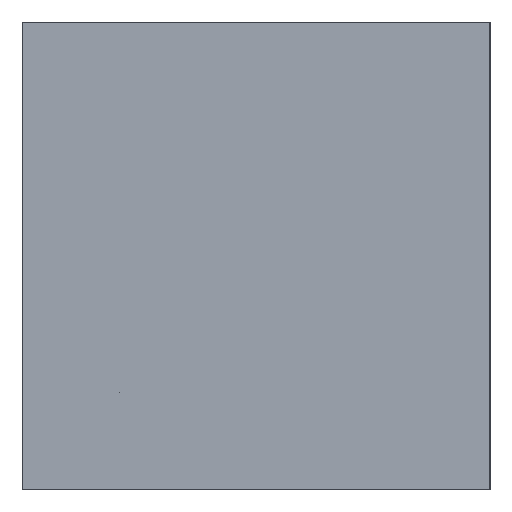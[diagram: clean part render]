
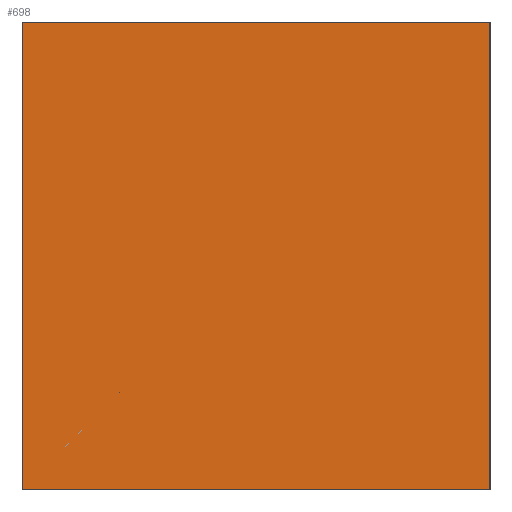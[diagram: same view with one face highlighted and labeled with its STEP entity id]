
A CAD part, left-side view. The second image highlights one B-rep face of the part: STEP entity #698.
In plain terms, the highlighted planar face has unit normal (-1, 0, 0).
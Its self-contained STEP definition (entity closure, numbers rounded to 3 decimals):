
#9 = VERTEX_POINT ( 'NONE', #51 ) ;
#51 = CARTESIAN_POINT ( 'NONE',  ( -40., 0., 6.35 ) ) ;
#65 = FACE_OUTER_BOUND ( 'NONE', #795, .T. ) ;
#68 = CARTESIAN_POINT ( 'NONE',  ( -40., 12.7, 6.35 ) ) ;
#93 = LINE ( 'NONE', #831, #708 ) ;
#104 = VECTOR ( 'NONE', #722, 1000. ) ;
#111 = DIRECTION ( 'NONE',  ( 0., -1., 0. ) ) ;
#174 = DIRECTION ( 'NONE',  ( 1., 0., 0. ) ) ;
#209 = DIRECTION ( 'NONE',  ( 0., 0., 1. ) ) ;
#242 = LINE ( 'NONE', #596, #888 ) ;
#243 = ORIENTED_EDGE ( 'NONE', *, *, #537, .F. ) ;
#256 = VECTOR ( 'NONE', #111, 1000. ) ;
#302 = CARTESIAN_POINT ( 'NONE',  ( -40., 0., -6.35 ) ) ;
#379 = PLANE ( 'NONE',  #431 ) ;
#407 = EDGE_CURVE ( 'NONE', #486, #478, #93, .T. ) ;
#431 = AXIS2_PLACEMENT_3D ( 'NONE', #536, #174, #666 ) ;
#436 = ORIENTED_EDGE ( 'NONE', *, *, #598, .T. ) ;
#478 = VERTEX_POINT ( 'NONE', #68 ) ;
#486 = VERTEX_POINT ( 'NONE', #762 ) ;
#535 = CARTESIAN_POINT ( 'NONE',  ( -40., 12.7, 6.35 ) ) ;
#536 = CARTESIAN_POINT ( 'NONE',  ( -40., 12.7, -6.35 ) ) ;
#537 = EDGE_CURVE ( 'NONE', #478, #9, #558, .T. ) ;
#543 = LINE ( 'NONE', #302, #104 ) ;
#558 = LINE ( 'NONE', #535, #256 ) ;
#595 = VERTEX_POINT ( 'NONE', #603 ) ;
#596 = CARTESIAN_POINT ( 'NONE',  ( -40., 12.7, -6.35 ) ) ;
#598 = EDGE_CURVE ( 'NONE', #486, #595, #242, .T. ) ;
#603 = CARTESIAN_POINT ( 'NONE',  ( -40., 0., -6.35 ) ) ;
#666 = DIRECTION ( 'NONE',  ( 0., 0., -1. ) ) ;
#673 = DIRECTION ( 'NONE',  ( 0., -1., 0. ) ) ;
#698 = ADVANCED_FACE ( 'NONE', ( #65 ), #379, .F. ) ;
#705 = ORIENTED_EDGE ( 'NONE', *, *, #407, .F. ) ;
#708 = VECTOR ( 'NONE', #209, 1000. ) ;
#722 = DIRECTION ( 'NONE',  ( 0., 0., 1. ) ) ;
#762 = CARTESIAN_POINT ( 'NONE',  ( -40., 12.7, -6.35 ) ) ;
#791 = ORIENTED_EDGE ( 'NONE', *, *, #864, .T. ) ;
#795 = EDGE_LOOP ( 'NONE', ( #791, #243, #705, #436 ) ) ;
#831 = CARTESIAN_POINT ( 'NONE',  ( -40., 12.7, -6.35 ) ) ;
#864 = EDGE_CURVE ( 'NONE', #595, #9, #543, .T. ) ;
#888 = VECTOR ( 'NONE', #673, 1000. ) ;
